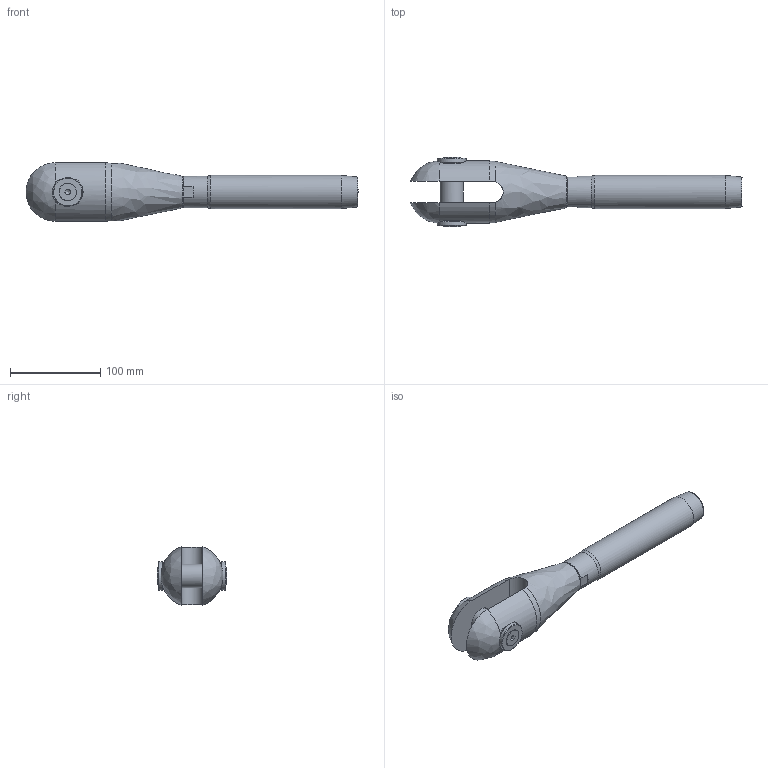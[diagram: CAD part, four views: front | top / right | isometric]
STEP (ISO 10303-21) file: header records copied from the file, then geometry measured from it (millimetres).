
FILE_DESCRIPTION(/* description */ (''),/* implementation_level */ '2;1');
FILE_NAME(/* name */ 'MAC-R 18_S355',/* time_stamp */ '2023-05-23T17:52:47+02:00',/* author */ (''),/* organization */ (''),/* preprocessor_version */ 'ST-DEVELOPER v16.5',/* originating_system */ 'Rhino 7.22',/* authorisation */ '');
FILE_SCHEMA (('CONFIG_CONTROL_DESIGN'));
Length unit declared in the file: millimetre
Products named in the file (1): Document
Bounding box: 368.28 x 77.16 x 64.69 mm (x, y, z)
Volume: 557010.7 mm3; surface area: 93100.8 mm2
Topology: 7 solids, 7 shells, 89 faces, 250 edges, 173 vertices
Faces by surface type: plane 37, bspline 28, cylinder 24
Full cylindrical faces by diameter (mm): 8.376 x2, 10 x2, 10.5 x2, 19.22 x2, 26 x1, 28 x2, 29.211 x1, 32 x2, 33 x1, 35 x1, 36.8 x1
Entity records: 3533 total; most frequent: CARTESIAN_POINT 1950, ORIENTED_EDGE 490, EDGE_CURVE 245, VERTEX_POINT 173, EDGE_LOOP 100, B_SPLINE_CURVE_WITH_KNOTS 99, ADVANCED_FACE 89, FACE_OUTER_BOUND 89
